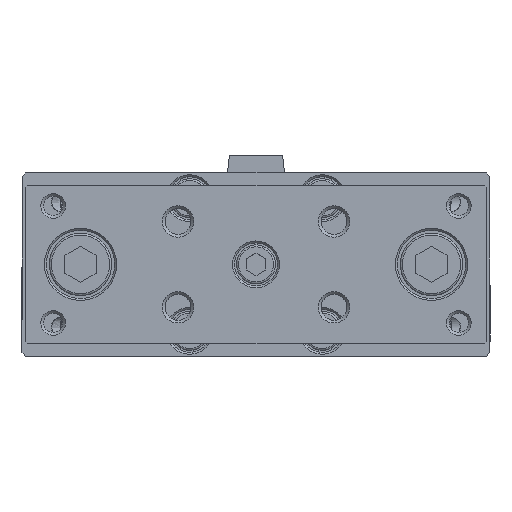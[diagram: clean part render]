
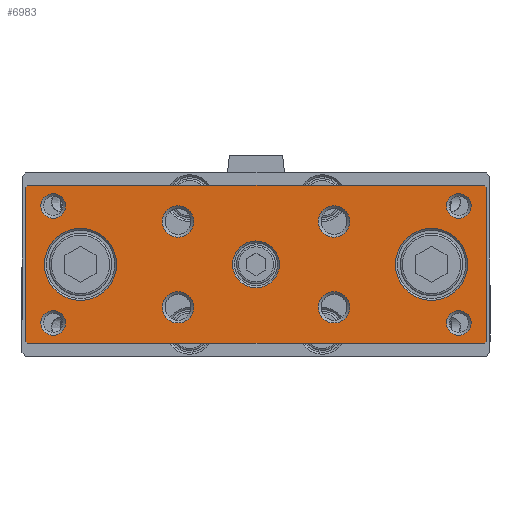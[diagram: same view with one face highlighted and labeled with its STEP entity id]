
A CAD part, top view. The second image highlights one B-rep face of the part: STEP entity #6983.
In plain terms, the highlighted planar face has unit normal (0, 0, 1).
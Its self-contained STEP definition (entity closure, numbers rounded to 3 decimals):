
#6765=CARTESIAN_POINT('',(-62.226,-20.37,141.));
#6766=VERTEX_POINT('',#6765);
#6767=CARTESIAN_POINT('',(-62.726,-19.87,141.));
#6768=VERTEX_POINT('',#6767);
#6769=CARTESIAN_POINT('',(-62.226,-20.37,141.));
#6770=DIRECTION('',(-0.707,0.707,0.0));
#6771=VECTOR('',#6770,0.707);
#6772=LINE('',#6769,#6771);
#6773=EDGE_CURVE('',#6766,#6768,#6772,.T.);
#6800=CARTESIAN_POINT('',(-3.726,-0.12,141.));
#6801=DIRECTION('',(0.0,0.0,1.0));
#6802=DIRECTION('',(1.0,0.0,0.0));
#6803=AXIS2_PLACEMENT_3D('',#6800,#6801,#6802);
#6804=PLANE('',#6803);
#6805=ORIENTED_EDGE('',*,*,#6773,.F.);
#6806=CARTESIAN_POINT('',(54.774,-20.37,141.));
#6807=VERTEX_POINT('',#6806);
#6808=CARTESIAN_POINT('',(54.774,-20.37,141.));
#6809=DIRECTION('',(-1.0,0.0,0.0));
#6810=VECTOR('',#6809,117.0);
#6811=LINE('',#6808,#6810);
#6812=EDGE_CURVE('',#6807,#6766,#6811,.T.);
#6813=ORIENTED_EDGE('',*,*,#6812,.F.);
#6814=CARTESIAN_POINT('',(55.274,-19.87,141.));
#6815=VERTEX_POINT('',#6814);
#6816=CARTESIAN_POINT('',(55.274,-19.87,141.));
#6817=DIRECTION('',(-0.707,-0.707,0.0));
#6818=VECTOR('',#6817,0.707);
#6819=LINE('',#6816,#6818);
#6820=EDGE_CURVE('',#6815,#6807,#6819,.T.);
#6821=ORIENTED_EDGE('',*,*,#6820,.F.);
#6822=CARTESIAN_POINT('',(55.274,19.63,141.));
#6823=VERTEX_POINT('',#6822);
#6824=CARTESIAN_POINT('',(55.274,19.63,141.));
#6825=DIRECTION('',(0.0,-1.0,0.0));
#6826=VECTOR('',#6825,39.5);
#6827=LINE('',#6824,#6826);
#6828=EDGE_CURVE('',#6823,#6815,#6827,.T.);
#6829=ORIENTED_EDGE('',*,*,#6828,.F.);
#6830=CARTESIAN_POINT('',(54.774,20.13,141.));
#6831=VERTEX_POINT('',#6830);
#6832=CARTESIAN_POINT('',(54.774,20.13,141.));
#6833=DIRECTION('',(0.707,-0.707,0.0));
#6834=VECTOR('',#6833,0.707);
#6835=LINE('',#6832,#6834);
#6836=EDGE_CURVE('',#6831,#6823,#6835,.T.);
#6837=ORIENTED_EDGE('',*,*,#6836,.F.);
#6838=CARTESIAN_POINT('',(-62.226,20.13,141.));
#6839=VERTEX_POINT('',#6838);
#6840=CARTESIAN_POINT('',(-62.226,20.13,141.));
#6841=DIRECTION('',(1.0,0.0,0.0));
#6842=VECTOR('',#6841,117.0);
#6843=LINE('',#6840,#6842);
#6844=EDGE_CURVE('',#6839,#6831,#6843,.T.);
#6845=ORIENTED_EDGE('',*,*,#6844,.F.);
#6846=CARTESIAN_POINT('',(-62.726,19.63,141.));
#6847=VERTEX_POINT('',#6846);
#6848=CARTESIAN_POINT('',(-62.726,19.63,141.));
#6849=DIRECTION('',(0.707,0.707,0.0));
#6850=VECTOR('',#6849,0.707);
#6851=LINE('',#6848,#6850);
#6852=EDGE_CURVE('',#6847,#6839,#6851,.T.);
#6853=ORIENTED_EDGE('',*,*,#6852,.F.);
#6854=CARTESIAN_POINT('',(-62.726,-19.87,141.));
#6855=DIRECTION('',(0.0,1.0,0.0));
#6856=VECTOR('',#6855,39.5);
#6857=LINE('',#6854,#6856);
#6858=EDGE_CURVE('',#6768,#6847,#6857,.T.);
#6859=ORIENTED_EDGE('',*,*,#6858,.F.);
#6860=EDGE_LOOP('',(#6805,#6813,#6821,#6829,#6837,#6845,#6853,#6859));
#6861=FACE_OUTER_BOUND('',#6860,.T.);
#6862=CARTESIAN_POINT('',(50.524,-0.12,141.));
#6863=VERTEX_POINT('',#6862);
#6864=CARTESIAN_POINT('',(41.274,-0.12,141.));
#6865=DIRECTION('',(0.0,0.0,1.0));
#6866=DIRECTION('',(-1.0,0.0,0.0));
#6867=AXIS2_PLACEMENT_3D('',#6864,#6865,#6866);
#6868=CIRCLE('',#6867,9.25);
#6869=EDGE_CURVE('',#6863,#6863,#6868,.T.);
#6870=ORIENTED_EDGE('',*,*,#6869,.F.);
#6871=EDGE_LOOP('',(#6870));
#6872=FACE_BOUND('',#6871,.T.);
#6873=CARTESIAN_POINT('',(2.274,-0.12,141.));
#6874=VERTEX_POINT('',#6873);
#6875=CARTESIAN_POINT('',(-3.726,-0.12,141.));
#6876=DIRECTION('',(0.0,0.0,1.0));
#6877=DIRECTION('',(-1.0,0.0,0.0));
#6878=AXIS2_PLACEMENT_3D('',#6875,#6876,#6877);
#6879=CIRCLE('',#6878,6.);
#6880=EDGE_CURVE('',#6874,#6874,#6879,.T.);
#6881=ORIENTED_EDGE('',*,*,#6880,.F.);
#6882=EDGE_LOOP('',(#6881));
#6883=FACE_BOUND('',#6882,.T.);
#6884=CARTESIAN_POINT('',(20.298,-11.12,141.));
#6885=VERTEX_POINT('',#6884);
#6886=CARTESIAN_POINT('',(16.274,-11.12,141.));
#6887=DIRECTION('',(0.0,0.0,1.0));
#6888=DIRECTION('',(-1.0,0.0,0.0));
#6889=AXIS2_PLACEMENT_3D('',#6886,#6887,#6888);
#6890=CIRCLE('',#6889,4.024);
#6891=EDGE_CURVE('',#6885,#6885,#6890,.T.);
#6892=ORIENTED_EDGE('',*,*,#6891,.F.);
#6893=EDGE_LOOP('',(#6892));
#6894=FACE_BOUND('',#6893,.T.);
#6895=CARTESIAN_POINT('',(-19.702,-11.12,141.));
#6896=VERTEX_POINT('',#6895);
#6897=CARTESIAN_POINT('',(-23.726,-11.12,141.));
#6898=DIRECTION('',(0.0,0.0,1.0));
#6899=DIRECTION('',(-1.0,0.0,0.0));
#6900=AXIS2_PLACEMENT_3D('',#6897,#6898,#6899);
#6901=CIRCLE('',#6900,4.023);
#6902=EDGE_CURVE('',#6896,#6896,#6901,.T.);
#6903=ORIENTED_EDGE('',*,*,#6902,.F.);
#6904=EDGE_LOOP('',(#6903));
#6905=FACE_BOUND('',#6904,.T.);
#6906=CARTESIAN_POINT('',(20.298,10.88,141.));
#6907=VERTEX_POINT('',#6906);
#6908=CARTESIAN_POINT('',(16.274,10.88,141.));
#6909=DIRECTION('',(0.0,0.0,1.0));
#6910=DIRECTION('',(-1.0,0.0,0.0));
#6911=AXIS2_PLACEMENT_3D('',#6908,#6909,#6910);
#6912=CIRCLE('',#6911,4.024);
#6913=EDGE_CURVE('',#6907,#6907,#6912,.T.);
#6914=ORIENTED_EDGE('',*,*,#6913,.F.);
#6915=EDGE_LOOP('',(#6914));
#6916=FACE_BOUND('',#6915,.T.);
#6917=CARTESIAN_POINT('',(-19.702,10.88,141.));
#6918=VERTEX_POINT('',#6917);
#6919=CARTESIAN_POINT('',(-23.726,10.88,141.));
#6920=DIRECTION('',(0.0,0.0,1.0));
#6921=DIRECTION('',(-1.0,0.0,0.0));
#6922=AXIS2_PLACEMENT_3D('',#6919,#6920,#6921);
#6923=CIRCLE('',#6922,4.023);
#6924=EDGE_CURVE('',#6918,#6918,#6923,.T.);
#6925=ORIENTED_EDGE('',*,*,#6924,.F.);
#6926=EDGE_LOOP('',(#6925));
#6927=FACE_BOUND('',#6926,.T.);
#6928=CARTESIAN_POINT('',(51.433,14.88,141.));
#6929=VERTEX_POINT('',#6928);
#6930=CARTESIAN_POINT('',(48.274,14.88,141.));
#6931=DIRECTION('',(0.0,0.0,1.0));
#6932=DIRECTION('',(-1.0,0.0,0.0));
#6933=AXIS2_PLACEMENT_3D('',#6930,#6931,#6932);
#6934=CIRCLE('',#6933,3.159);
#6935=EDGE_CURVE('',#6929,#6929,#6934,.T.);
#6936=ORIENTED_EDGE('',*,*,#6935,.F.);
#6937=EDGE_LOOP('',(#6936));
#6938=FACE_BOUND('',#6937,.T.);
#6939=CARTESIAN_POINT('',(51.433,-15.12,141.));
#6940=VERTEX_POINT('',#6939);
#6941=CARTESIAN_POINT('',(48.274,-15.12,141.));
#6942=DIRECTION('',(0.0,0.0,1.0));
#6943=DIRECTION('',(-1.0,0.0,0.0));
#6944=AXIS2_PLACEMENT_3D('',#6941,#6942,#6943);
#6945=CIRCLE('',#6944,3.159);
#6946=EDGE_CURVE('',#6940,#6940,#6945,.T.);
#6947=ORIENTED_EDGE('',*,*,#6946,.F.);
#6948=EDGE_LOOP('',(#6947));
#6949=FACE_BOUND('',#6948,.T.);
#6950=CARTESIAN_POINT('',(-52.567,-15.12,141.));
#6951=VERTEX_POINT('',#6950);
#6952=CARTESIAN_POINT('',(-55.726,-15.12,141.));
#6953=DIRECTION('',(0.0,0.0,1.0));
#6954=DIRECTION('',(-1.0,0.0,0.0));
#6955=AXIS2_PLACEMENT_3D('',#6952,#6953,#6954);
#6956=CIRCLE('',#6955,3.159);
#6957=EDGE_CURVE('',#6951,#6951,#6956,.T.);
#6958=ORIENTED_EDGE('',*,*,#6957,.F.);
#6959=EDGE_LOOP('',(#6958));
#6960=FACE_BOUND('',#6959,.T.);
#6961=CARTESIAN_POINT('',(-52.567,14.88,141.));
#6962=VERTEX_POINT('',#6961);
#6963=CARTESIAN_POINT('',(-55.726,14.88,141.));
#6964=DIRECTION('',(0.0,0.0,1.0));
#6965=DIRECTION('',(-1.0,0.0,0.0));
#6966=AXIS2_PLACEMENT_3D('',#6963,#6964,#6965);
#6967=CIRCLE('',#6966,3.159);
#6968=EDGE_CURVE('',#6962,#6962,#6967,.T.);
#6969=ORIENTED_EDGE('',*,*,#6968,.F.);
#6970=EDGE_LOOP('',(#6969));
#6971=FACE_BOUND('',#6970,.T.);
#6972=CARTESIAN_POINT('',(-39.476,-0.12,141.));
#6973=VERTEX_POINT('',#6972);
#6974=CARTESIAN_POINT('',(-48.726,-0.12,141.));
#6975=DIRECTION('',(0.0,0.0,1.0));
#6976=DIRECTION('',(-1.0,0.0,0.0));
#6977=AXIS2_PLACEMENT_3D('',#6974,#6975,#6976);
#6978=CIRCLE('',#6977,9.25);
#6979=EDGE_CURVE('',#6973,#6973,#6978,.T.);
#6980=ORIENTED_EDGE('',*,*,#6979,.F.);
#6981=EDGE_LOOP('',(#6980));
#6982=FACE_BOUND('',#6981,.T.);
#6983=ADVANCED_FACE('',(#6861,#6872,#6883,#6894,#6905,#6916,#6927,#6938,#6949,#6960,#6971,#6982),#6804,.T.);
